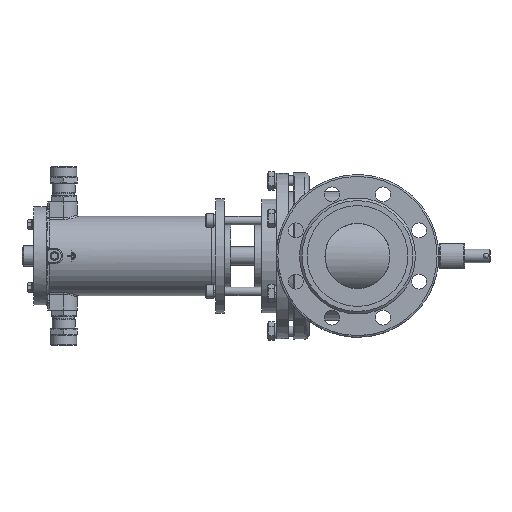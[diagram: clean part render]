
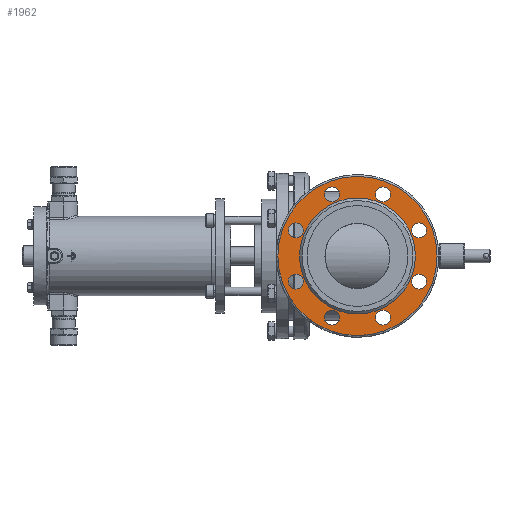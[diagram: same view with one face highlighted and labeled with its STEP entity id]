
A CAD part, left-side view. The second image highlights one B-rep face of the part: STEP entity #1962.
In plain terms, the highlighted planar face has unit normal (-1, 0, 0).
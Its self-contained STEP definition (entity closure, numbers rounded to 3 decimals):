
#1962=ADVANCED_FACE('',(#22129,#22131,#22133,#22135,#22137,#22139,#22141,#22143,
#22145,#22147),#22149,.T.);
#22129=FACE_BOUND('',#22130,.T.);
#22130=EDGE_LOOP('',(#33710));
#22131=FACE_BOUND('',#22132,.T.);
#22132=EDGE_LOOP('',(#33711));
#22133=FACE_BOUND('',#22134,.T.);
#22134=EDGE_LOOP('',(#33712));
#22135=FACE_BOUND('',#22136,.T.);
#22136=EDGE_LOOP('',(#33713));
#22137=FACE_BOUND('',#22138,.T.);
#22138=EDGE_LOOP('',(#33714));
#22139=FACE_BOUND('',#22140,.T.);
#22140=EDGE_LOOP('',(#33715));
#22141=FACE_BOUND('',#22142,.T.);
#22142=EDGE_LOOP('',(#33716));
#22143=FACE_BOUND('',#22144,.T.);
#22144=EDGE_LOOP('',(#33717));
#22145=FACE_BOUND('',#22146,.T.);
#22146=EDGE_LOOP('',(#33718));
#22147=FACE_OUTER_BOUND('',#22148,.T.);
#22148=EDGE_LOOP('',(#33719));
#22149=PLANE('',#22150);
#22150=AXIS2_PLACEMENT_3D('',#22151,#22152,#22153);
#22151=CARTESIAN_POINT('',(-151.,0.,0.));
#22152=DIRECTION('',(-1.,0.,0.));
#22153=DIRECTION('',(0.,1.,0.));
#33710=ORIENTED_EDGE('',*,*,#41720,.T.);
#33711=ORIENTED_EDGE('',*,*,#41718,.T.);
#33712=ORIENTED_EDGE('',*,*,#41716,.T.);
#33713=ORIENTED_EDGE('',*,*,#41714,.T.);
#33714=ORIENTED_EDGE('',*,*,#41712,.T.);
#33715=ORIENTED_EDGE('',*,*,#41710,.T.);
#33716=ORIENTED_EDGE('',*,*,#41708,.T.);
#33717=ORIENTED_EDGE('',*,*,#41706,.T.);
#33718=ORIENTED_EDGE('',*,*,#41745,.F.);
#33719=ORIENTED_EDGE('',*,*,#41746,.T.);
#41706=EDGE_CURVE('',#50219,#50219,#50221,.T.);
#41708=EDGE_CURVE('',#50222,#50222,#50224,.T.);
#41710=EDGE_CURVE('',#50225,#50225,#50227,.T.);
#41712=EDGE_CURVE('',#50228,#50228,#50230,.T.);
#41714=EDGE_CURVE('',#50231,#50231,#50233,.T.);
#41716=EDGE_CURVE('',#50234,#50234,#50236,.T.);
#41718=EDGE_CURVE('',#50237,#50237,#50239,.T.);
#41720=EDGE_CURVE('',#50240,#50240,#50242,.T.);
#41745=EDGE_CURVE('',#50281,#50281,#50282,.T.);
#41746=EDGE_CURVE('',#50283,#50283,#50284,.T.);
#50219=VERTEX_POINT('',#80724);
#50221=CIRCLE('',#80728,9.);
#50222=VERTEX_POINT('',#80732);
#50224=CIRCLE('',#80736,9.);
#50225=VERTEX_POINT('',#80740);
#50227=CIRCLE('',#80744,9.);
#50228=VERTEX_POINT('',#80748);
#50230=CIRCLE('',#80752,9.);
#50231=VERTEX_POINT('',#80756);
#50233=CIRCLE('',#80760,9.);
#50234=VERTEX_POINT('',#80764);
#50236=CIRCLE('',#80768,9.);
#50237=VERTEX_POINT('',#80772);
#50239=CIRCLE('',#80776,9.);
#50240=VERTEX_POINT('',#80780);
#50242=CIRCLE('',#80784,9.);
#50281=VERTEX_POINT('',#81089);
#50282=CIRCLE('',#81090,69.5);
#50283=VERTEX_POINT('',#81094);
#50284=CIRCLE('',#81095,95.5);
#80724=CARTESIAN_POINT('',(-151.,30.615,64.91));
#80728=AXIS2_PLACEMENT_3D('',#80729,#80730,#80731);
#80729=CARTESIAN_POINT('',(-151.,30.615,73.91));
#80730=DIRECTION('',(1.,0.,0.));
#80731=DIRECTION('',(0.,-1.,0.));
#80732=CARTESIAN_POINT('',(-151.,30.615,-82.91));
#80736=AXIS2_PLACEMENT_3D('',#80737,#80738,#80739);
#80737=CARTESIAN_POINT('',(-151.,30.615,-73.91));
#80738=DIRECTION('',(1.,0.,0.));
#80739=DIRECTION('',(0.,-1.,0.));
#80740=CARTESIAN_POINT('',(-151.,73.91,21.615));
#80744=AXIS2_PLACEMENT_3D('',#80745,#80746,#80747);
#80745=CARTESIAN_POINT('',(-151.,73.91,30.615));
#80746=DIRECTION('',(1.,0.,0.));
#80747=DIRECTION('',(0.,-1.,0.));
#80748=CARTESIAN_POINT('',(-151.,-30.615,-82.91));
#80752=AXIS2_PLACEMENT_3D('',#80753,#80754,#80755);
#80753=CARTESIAN_POINT('',(-151.,-30.615,-73.91));
#80754=DIRECTION('',(1.,0.,0.));
#80755=DIRECTION('',(0.,-1.,0.));
#80756=CARTESIAN_POINT('',(-151.,-73.91,21.615));
#80760=AXIS2_PLACEMENT_3D('',#80761,#80762,#80763);
#80761=CARTESIAN_POINT('',(-151.,-73.91,30.615));
#80762=DIRECTION('',(1.,0.,0.));
#80763=DIRECTION('',(0.,-1.,0.));
#80764=CARTESIAN_POINT('',(-151.,-30.615,64.91));
#80768=AXIS2_PLACEMENT_3D('',#80769,#80770,#80771);
#80769=CARTESIAN_POINT('',(-151.,-30.615,73.91));
#80770=DIRECTION('',(1.,0.,0.));
#80771=DIRECTION('',(0.,-1.,0.));
#80772=CARTESIAN_POINT('',(-151.,73.91,-39.615));
#80776=AXIS2_PLACEMENT_3D('',#80777,#80778,#80779);
#80777=CARTESIAN_POINT('',(-151.,73.91,-30.615));
#80778=DIRECTION('',(1.,0.,0.));
#80779=DIRECTION('',(0.,-1.,0.));
#80780=CARTESIAN_POINT('',(-151.,-73.91,-39.615));
#80784=AXIS2_PLACEMENT_3D('',#80785,#80786,#80787);
#80785=CARTESIAN_POINT('',(-151.,-73.91,-30.615));
#80786=DIRECTION('',(1.,0.,0.));
#80787=DIRECTION('',(0.,-1.,0.));
#81089=CARTESIAN_POINT('',(-151.,-69.5,0.));
#81090=AXIS2_PLACEMENT_3D('',#81091,#81092,#81093);
#81091=CARTESIAN_POINT('',(-151.,0.,0.));
#81092=DIRECTION('',(-1.,0.,0.));
#81093=DIRECTION('',(0.,1.,0.));
#81094=CARTESIAN_POINT('',(-151.,-95.5,0.));
#81095=AXIS2_PLACEMENT_3D('',#81096,#81097,#81098);
#81096=CARTESIAN_POINT('',(-151.,0.,0.));
#81097=DIRECTION('',(-1.,0.,0.));
#81098=DIRECTION('',(0.,1.,0.));
